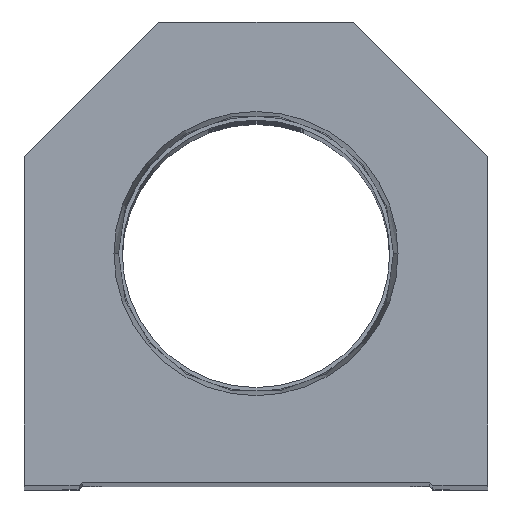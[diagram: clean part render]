
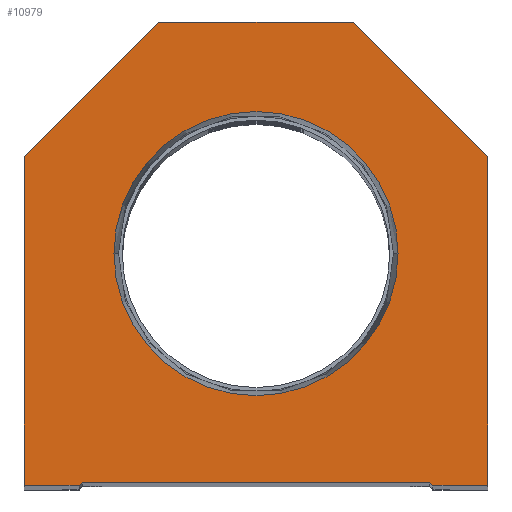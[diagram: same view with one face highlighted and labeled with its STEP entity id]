
A CAD part, top view. The second image highlights one B-rep face of the part: STEP entity #10979.
In plain terms, the highlighted planar face has unit normal (0, 0, 1).
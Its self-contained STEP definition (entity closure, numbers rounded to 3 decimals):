
#131 = CARTESIAN_POINT ( 'NONE',  ( 38.1, 54.1, 0. ) ) ;
#318 = CARTESIAN_POINT ( 'NONE',  ( 0., 38.1, 0. ) ) ;
#513 = CARTESIAN_POINT ( 'NONE',  ( -28.6, 0., 0. ) ) ;
#569 = CARTESIAN_POINT ( 'NONE',  ( -16., 76.2, 0. ) ) ;
#722 = DIRECTION ( 'NONE',  ( -0.707, 0.707, 0. ) ) ;
#1367 = DIRECTION ( 'NONE',  ( 0., -1., 0. ) ) ;
#1686 = DIRECTION ( 'NONE',  ( -0.707, -0.707, 0. ) ) ;
#1937 = LINE ( 'NONE', #12681, #13131 ) ;
#2024 = LINE ( 'NONE', #6057, #13232 ) ;
#2066 = DIRECTION ( 'NONE',  ( 0., 1., 0. ) ) ;
#2190 = ORIENTED_EDGE ( 'NONE', *, *, #9598, .T. ) ;
#2203 = CARTESIAN_POINT ( 'NONE',  ( -28.6, 0.5, 0. ) ) ;
#2405 = CARTESIAN_POINT ( 'NONE',  ( -38.1, 54.1, 0. ) ) ;
#2424 = CARTESIAN_POINT ( 'NONE',  ( 16., 76.2, 0. ) ) ;
#2753 = FACE_BOUND ( 'NONE', #5421, .T. ) ;
#2862 = VECTOR ( 'NONE', #4802, 1000. ) ;
#2965 = DIRECTION ( 'NONE',  ( 0., 0., 1. ) ) ;
#3260 = DIRECTION ( 'NONE',  ( -1., 0., 0. ) ) ;
#3424 = VECTOR ( 'NONE', #1686, 1000. ) ;
#3466 = EDGE_CURVE ( 'NONE', #6471, #7197, #11403, .T. ) ;
#3502 = LINE ( 'NONE', #10279, #7116 ) ;
#3607 = CARTESIAN_POINT ( 'NONE',  ( 28.6, 0., 0. ) ) ;
#3620 = DIRECTION ( 'NONE',  ( 1., 0., 0. ) ) ;
#3739 = VECTOR ( 'NONE', #5922, 1000. ) ;
#3805 = VERTEX_POINT ( 'NONE', #11830 ) ;
#3883 = DIRECTION ( 'NONE',  ( 0., 0., 1. ) ) ;
#4004 = ORIENTED_EDGE ( 'NONE', *, *, #13504, .F. ) ;
#4058 = CARTESIAN_POINT ( 'NONE',  ( 0., 38.1, 0. ) ) ;
#4121 = CARTESIAN_POINT ( 'NONE',  ( 29.1, 0., 0. ) ) ;
#4164 = ORIENTED_EDGE ( 'NONE', *, *, #3466, .T. ) ;
#4750 = CARTESIAN_POINT ( 'NONE',  ( 23.374, 38.1, 0. ) ) ;
#4802 = DIRECTION ( 'NONE',  ( 1., 0., 0. ) ) ;
#4888 = CARTESIAN_POINT ( 'NONE',  ( -23.374, 38.1, 0. ) ) ;
#4962 = VERTEX_POINT ( 'NONE', #17409 ) ;
#5421 = EDGE_LOOP ( 'NONE', ( #4004, #13725 ) ) ;
#5446 = CARTESIAN_POINT ( 'NONE',  ( -38.1, 54.1, 0. ) ) ;
#5851 = ORIENTED_EDGE ( 'NONE', *, *, #9701, .T. ) ;
#5876 = PLANE ( 'NONE',  #15447 ) ;
#5922 = DIRECTION ( 'NONE',  ( 1., 0., 0. ) ) ;
#5945 = LINE ( 'NONE', #6212, #16239 ) ;
#6057 = CARTESIAN_POINT ( 'NONE',  ( 38.1, 54.1, 0. ) ) ;
#6212 = CARTESIAN_POINT ( 'NONE',  ( 14.55, 14.55, 0. ) ) ;
#6423 = EDGE_CURVE ( 'NONE', #3805, #17264, #3502, .T. ) ;
#6471 = VERTEX_POINT ( 'NONE', #13284 ) ;
#6663 = DIRECTION ( 'NONE',  ( 1., 0., 0. ) ) ;
#6790 = CARTESIAN_POINT ( 'NONE',  ( -38.1, 0., 0. ) ) ;
#7023 = ORIENTED_EDGE ( 'NONE', *, *, #16776, .T. ) ;
#7116 = VECTOR ( 'NONE', #16649, 1000. ) ;
#7144 = EDGE_CURVE ( 'NONE', #17426, #11606, #7881, .T. ) ;
#7197 = VERTEX_POINT ( 'NONE', #131 ) ;
#7240 = CARTESIAN_POINT ( 'NONE',  ( 38.1, 0., 0. ) ) ;
#7470 = LINE ( 'NONE', #2203, #15348 ) ;
#7881 = LINE ( 'NONE', #6790, #13658 ) ;
#7896 = VERTEX_POINT ( 'NONE', #4121 ) ;
#7921 = VERTEX_POINT ( 'NONE', #4888 ) ;
#7985 = DIRECTION ( 'NONE',  ( 1., 0., 0. ) ) ;
#8284 = CARTESIAN_POINT ( 'NONE',  ( -28.6, 0.5, 0. ) ) ;
#8325 = VERTEX_POINT ( 'NONE', #2424 ) ;
#8366 = EDGE_CURVE ( 'NONE', #10805, #17426, #10841, .T. ) ;
#8453 = DIRECTION ( 'NONE',  ( 1., 0., 0. ) ) ;
#8999 = EDGE_CURVE ( 'NONE', #11606, #3805, #15501, .T. ) ;
#9083 = CARTESIAN_POINT ( 'NONE',  ( -38.1, 0., 0. ) ) ;
#9278 = AXIS2_PLACEMENT_3D ( 'NONE', #318, #2965, #6663 ) ;
#9549 = CIRCLE ( 'NONE', #9278, 23.374 ) ;
#9598 = EDGE_CURVE ( 'NONE', #8325, #10805, #1937, .T. ) ;
#9701 = EDGE_CURVE ( 'NONE', #4962, #7896, #5945, .T. ) ;
#9874 = CARTESIAN_POINT ( 'NONE',  ( 0., 0., 0. ) ) ;
#10279 = CARTESIAN_POINT ( 'NONE',  ( -14.55, 14.55, 0. ) ) ;
#10805 = VERTEX_POINT ( 'NONE', #569 ) ;
#10841 = LINE ( 'NONE', #5446, #3424 ) ;
#10979 = ADVANCED_FACE ( 'NONE', ( #2753, #12606 ), #5876, .T. ) ;
#11334 = ORIENTED_EDGE ( 'NONE', *, *, #6423, .T. ) ;
#11403 = LINE ( 'NONE', #7240, #13457 ) ;
#11606 = VERTEX_POINT ( 'NONE', #9083 ) ;
#11609 = ORIENTED_EDGE ( 'NONE', *, *, #8999, .T. ) ;
#11703 = EDGE_LOOP ( 'NONE', ( #11609, #11334, #13477, #5851, #7023, #4164, #14634, #2190, #13496, #15691 ) ) ;
#11830 = CARTESIAN_POINT ( 'NONE',  ( -29.1, 0., 0. ) ) ;
#12230 = CIRCLE ( 'NONE', #14238, 23.374 ) ;
#12606 = FACE_OUTER_BOUND ( 'NONE', #11703, .T. ) ;
#12681 = CARTESIAN_POINT ( 'NONE',  ( 16., 76.2, 0. ) ) ;
#13131 = VECTOR ( 'NONE', #3260, 1000. ) ;
#13232 = VECTOR ( 'NONE', #722, 1000. ) ;
#13284 = CARTESIAN_POINT ( 'NONE',  ( 38.1, 0., 0. ) ) ;
#13404 = EDGE_CURVE ( 'NONE', #7197, #8325, #2024, .T. ) ;
#13457 = VECTOR ( 'NONE', #2066, 1000. ) ;
#13477 = ORIENTED_EDGE ( 'NONE', *, *, #15854, .T. ) ;
#13496 = ORIENTED_EDGE ( 'NONE', *, *, #8366, .T. ) ;
#13504 = EDGE_CURVE ( 'NONE', #13916, #7921, #9549, .T. ) ;
#13658 = VECTOR ( 'NONE', #1367, 1000. ) ;
#13725 = ORIENTED_EDGE ( 'NONE', *, *, #16896, .F. ) ;
#13763 = DIRECTION ( 'NONE',  ( 0., 0., 1. ) ) ;
#13916 = VERTEX_POINT ( 'NONE', #4750 ) ;
#14238 = AXIS2_PLACEMENT_3D ( 'NONE', #4058, #3883, #7985 ) ;
#14279 = LINE ( 'NONE', #3607, #2862 ) ;
#14634 = ORIENTED_EDGE ( 'NONE', *, *, #13404, .T. ) ;
#15341 = DIRECTION ( 'NONE',  ( 0.707, -0.707, 0. ) ) ;
#15348 = VECTOR ( 'NONE', #3620, 1000. ) ;
#15447 = AXIS2_PLACEMENT_3D ( 'NONE', #9874, #13763, #8453 ) ;
#15501 = LINE ( 'NONE', #513, #3739 ) ;
#15691 = ORIENTED_EDGE ( 'NONE', *, *, #7144, .T. ) ;
#15854 = EDGE_CURVE ( 'NONE', #17264, #4962, #7470, .T. ) ;
#16239 = VECTOR ( 'NONE', #15341, 1000. ) ;
#16649 = DIRECTION ( 'NONE',  ( 0.707, 0.707, 0. ) ) ;
#16776 = EDGE_CURVE ( 'NONE', #7896, #6471, #14279, .T. ) ;
#16896 = EDGE_CURVE ( 'NONE', #7921, #13916, #12230, .T. ) ;
#17264 = VERTEX_POINT ( 'NONE', #8284 ) ;
#17409 = CARTESIAN_POINT ( 'NONE',  ( 28.6, 0.5, 0. ) ) ;
#17426 = VERTEX_POINT ( 'NONE', #2405 ) ;
